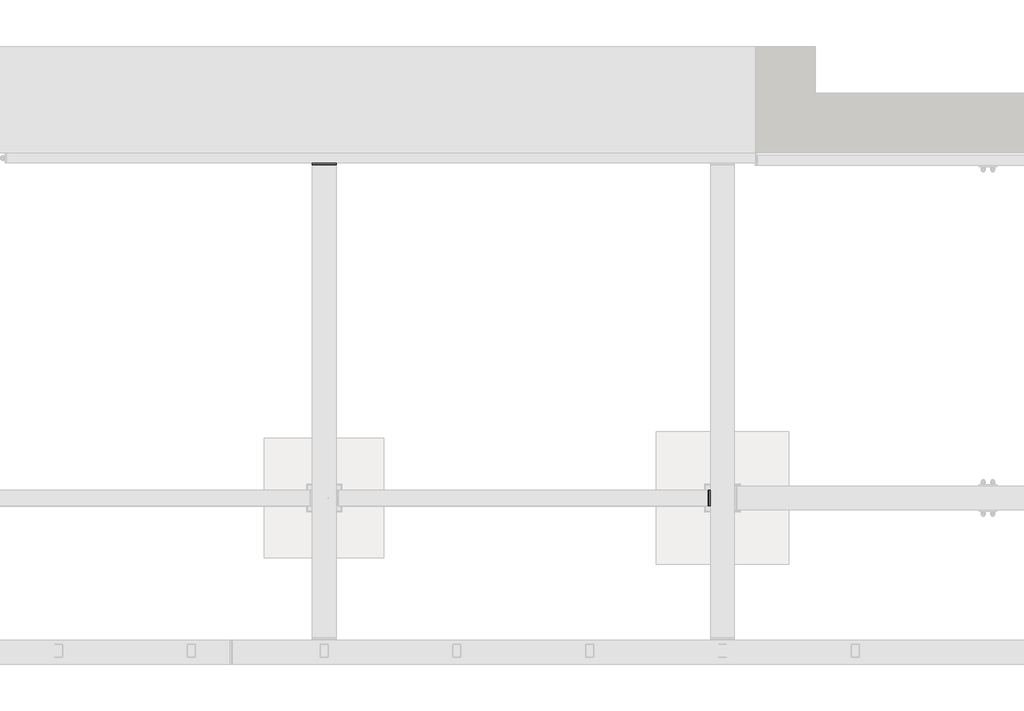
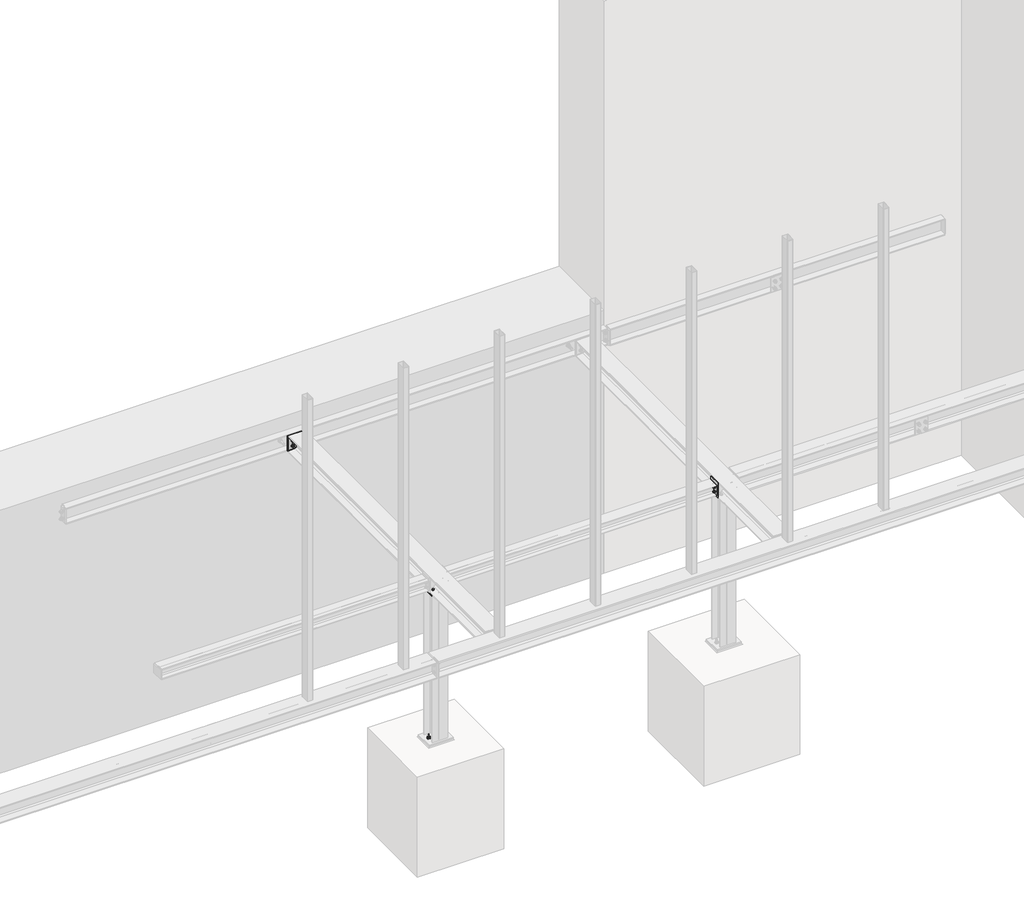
# One storey, part 11 of 31: 10 proxies.
"""IFC4 building model written with IfcOpenShell, lengths in millimetres."""

from ifc_helpers import new_model, si_unit, point, frame, frame_2d, origin, place, context, project, spatial, polyline, circle_curve, trimmed, segment, composite_curve, outline, extrude, element, save

model = new_model("IFC4")

# Units and contexts
model_context = context("Model", 3, world=origin())
ifc_project = project(units=[si_unit("LENGTHUNIT", "METRE", prefix="MILLI")], contexts=[model_context])

# Site, building, storey
site = spatial("IfcSite", under=ifc_project)
building = spatial("IfcBuilding", under=site)
storey = spatial("IfcBuildingStorey", under=building, Name="Základy", Elevation=-1200.0)

# Proxies
placement = place(None, origin())
element("IfcBuildingElementProxy", 1, Name="PLECH", ObjectType="PLECH", at=placement, inside=storey, context=model_context, shape_type="SweptSolid", body=[
    extrude(outline(polyline([(11940.0, 1200.0), (11940.0, 1320.0), (11950.0, 1320.0), (11950.0, 1200.0), (11940.0, 1200.0)])), frame((0.0, 0.0, -299.0), z_axis=(0.0, 0.0, 1.0), x_axis=(1.0, 0.0, 0.0)), (0.0, 0.0, 1.0), 98.0),
])
element("IfcBuildingElementProxy", 2, Name="PLECH", ObjectType="PLECH", at=placement, inside=storey, context=model_context, shape_type="SweptSolid", body=[
    extrude(outline(polyline([(8960.0, 3775.0), (9140.0, 3775.0), (9140.0, 3767.0), (8960.0, 3767.0), (8960.0, 3775.0)])), frame((0.0, 0.0, -316.0), z_axis=(0.0, 0.0, 1.0), x_axis=(1.0, 0.0, 0.0)), (0.0, 0.0, 1.0), 132.0),
])
element("IfcBuildingElementProxy", 3, Name="PLECH", ObjectType="PLECH", at=placement, inside=storey, context=model_context, shape_type="SweptSolid", body=[
    extrude(outline(polyline([(11950.0, 1200.0), (11950.0, 1320.0), (11960.0, 1320.0), (11960.0, 1200.0), (11950.0, 1200.0)])), frame((0.0, 0.0, -332.0), z_axis=(0.0, 0.0, 1.0), x_axis=(1.0, 0.0, 0.0)), (0.0, 0.0, 1.0), 164.0),
])
element("IfcBuildingElementProxy", 4, Name="PLECH", ObjectType="PLECH", at=placement, inside=storey, context=model_context, shape_type="SweptSolid", body=[
    extrude(outline(polyline([(9140.0, 1346.0), (9140.0, 1174.0), (8960.0, 1174.0), (8960.0, 1346.0), (9140.0, 1346.0)])), frame((0.0, 0.0, -350.0), z_axis=(0.0, 0.0, 1.0), x_axis=(1.0, 0.0, 0.0)), (0.0, 0.0, 1.0), 10.0),
])
element("IfcBuildingElementProxy", 5, Name="PLECH", ObjectType="PLECH", at=placement, inside=storey, context=model_context, shape_type="SweptSolid", body=[
    extrude(outline(composite_curve([segment(polyline([(3785.0, -170.5), (3834.5, -170.5)]), True, "CONTINUOUS"), segment(trimmed(circle_curve(frame_2d((3854.5, -170.5)), 20.0), [point((3834.5, -170.5))], [point((3854.5, -190.5))], True, "CARTESIAN"), True, "CONTINUOUS"), segment(polyline([(3854.5, -190.5), (3854.5, -309.5)]), True, "CONTINUOUS"), segment(trimmed(circle_curve(frame_2d((3854.5, -329.5)), 20.0), [point((3854.5, -309.5))], [point((3834.5, -329.5))], True, "CARTESIAN"), True, "CONTINUOUS"), segment(polyline([(3834.5, -329.5), (3785.0, -329.5), (3785.0, -170.5)]), True, "CONTINUOUS")], self_intersect=False)), frame((9046.0, 0.0, 0.0), z_axis=(1.0, 0.0, 0.0), x_axis=(0.0, 1.0, 0.0)), (0.0, 0.0, 1.0), 8.0),
])
element("IfcBuildingElementProxy", 6, Name="PLECH", ObjectType="PLECH", at=placement, inside=storey, context=model_context, shape_type="SweptSolid", body=[
    extrude(outline(polyline([(8960.0, 3785.0), (9140.0, 3785.0), (9140.0, 3775.0), (8960.0, 3775.0), (8960.0, 3785.0)])), frame((0.0, 0.0, -332.0), z_axis=(0.0, 0.0, 1.0), x_axis=(1.0, 0.0, 0.0)), (0.0, 0.0, 1.0), 164.0),
])
element("IfcBuildingElementProxy", 7, Name="Bolt assembly", ObjectType="Bolt assembly", at=placement, inside=storey, context=model_context, shape_type="SweptSolid", body=[
    extrude(outline(composite_curve([segment(trimmed(circle_curve(frame_2d((1230.0, -225.0)), 6.5), [point((1230.0, -231.5))], [point((1230.0, -218.5))], False, "CARTESIAN"), True, "CONTINUOUS"), segment(trimmed(circle_curve(frame_2d((1230.0, -225.0)), 6.5), [point((1230.0, -218.5))], [point((1230.0, -231.5))], False, "CARTESIAN"), True, "CONTINUOUS")], self_intersect=False)), frame((11949.9, 0.0, 0.0), z_axis=(1.0, 0.0, 0.0), x_axis=(0.0, 1.0, 0.0)), (0.0, 0.0, 1.0), 10.0),
    extrude(outline(polyline([(1230.0, -235.3923048), (1221.0, -230.1961524), (1221.0, -219.8038476), (1230.0, -214.6076952), (1239.0, -219.8038476), (1239.0, -230.1961524), (1230.0, -235.3923048)])), frame((11962.5, 0.0, 0.0), z_axis=(1.0, 0.0, 0.0), x_axis=(0.0, 1.0, 0.0)), (0.0, 0.0, 1.0), 7.5),
    extrude(outline(composite_curve([segment(trimmed(circle_curve(frame_2d((1230.0, -225.0)), 6.0), [point((1230.0, -231.0))], [point((1230.0, -219.0))], False, "CARTESIAN"), True, "CONTINUOUS"), segment(trimmed(circle_curve(frame_2d((1230.0, -225.0)), 6.0), [point((1230.0, -219.0))], [point((1230.0, -231.0))], False, "CARTESIAN"), True, "CONTINUOUS")], self_intersect=False)), frame((11922.5, 0.0, 0.0), z_axis=(1.0, 0.0, 0.0), x_axis=(0.0, 1.0, 0.0)), (0.0, 0.0, 1.0), 40.0),
    extrude(outline(composite_curve([segment(trimmed(circle_curve(frame_2d((1230.0, -225.0)), 12.0), [point((1230.0, -237.0))], [point((1230.0, -213.0))], False, "CARTESIAN"), True, "CONTINUOUS"), segment(trimmed(circle_curve(frame_2d((1230.0, -225.0)), 12.0), [point((1230.0, -213.0))], [point((1230.0, -237.0))], False, "CARTESIAN"), True, "CONTINUOUS")], self_intersect=False)), frame((11960.0, 0.0, 0.0), z_axis=(1.0, 0.0, 0.0), x_axis=(0.0, 1.0, 0.0)), (0.0, 0.0, 1.0), 2.5),
    extrude(outline(composite_curve([segment(trimmed(circle_curve(frame_2d((1230.0, -225.0)), 12.0), [point((1230.0, -237.0))], [point((1230.0, -213.0))], False, "CARTESIAN"), True, "CONTINUOUS"), segment(trimmed(circle_curve(frame_2d((1230.0, -225.0)), 12.0), [point((1230.0, -213.0))], [point((1230.0, -237.0))], False, "CARTESIAN"), True, "CONTINUOUS")], self_intersect=False)), frame((11937.5, 0.0, 0.0), z_axis=(1.0, 0.0, 0.0), x_axis=(0.0, 1.0, 0.0)), (0.0, 0.0, 1.0), 2.5),
    extrude(outline(polyline([(1230.0, -235.9696551), (1220.5, -230.4848276), (1220.5, -219.5151724), (1230.0, -214.0303449), (1239.5, -219.5151724), (1239.5, -230.4848276), (1230.0, -235.9696551)])), frame((11927.5, 0.0, 0.0), z_axis=(1.0, 0.0, 0.0), x_axis=(0.0, 1.0, 0.0)), (0.0, 0.0, 1.0), 10.0),
    extrude(outline(composite_curve([segment(trimmed(circle_curve(frame_2d((1230.0, -225.0)), 6.5), [point((1230.0, -231.5))], [point((1230.0, -218.5))], False, "CARTESIAN"), True, "CONTINUOUS"), segment(trimmed(circle_curve(frame_2d((1230.0, -225.0)), 6.5), [point((1230.0, -218.5))], [point((1230.0, -231.5))], False, "CARTESIAN"), True, "CONTINUOUS")], self_intersect=False)), frame((11940.0, 0.0, 0.0), z_axis=(1.0, 0.0, 0.0), x_axis=(0.0, 1.0, 0.0)), (0.0, 0.0, 1.0), 10.1),
    extrude(outline(composite_curve([segment(trimmed(circle_curve(frame_2d((1230.0, -275.0)), 6.5), [point((1230.0, -281.5))], [point((1230.0, -268.5))], False, "CARTESIAN"), True, "CONTINUOUS"), segment(trimmed(circle_curve(frame_2d((1230.0, -275.0)), 6.5), [point((1230.0, -268.5))], [point((1230.0, -281.5))], False, "CARTESIAN"), True, "CONTINUOUS")], self_intersect=False)), frame((11949.9, 0.0, 0.0), z_axis=(1.0, 0.0, 0.0), x_axis=(0.0, 1.0, 0.0)), (0.0, 0.0, 1.0), 10.0),
    extrude(outline(polyline([(1230.0, -285.3923048), (1221.0, -280.1961524), (1221.0, -269.8038476), (1230.0, -264.6076952), (1239.0, -269.8038476), (1239.0, -280.1961524), (1230.0, -285.3923048)])), frame((11962.5, 0.0, 0.0), z_axis=(1.0, 0.0, 0.0), x_axis=(0.0, 1.0, 0.0)), (0.0, 0.0, 1.0), 7.5),
    extrude(outline(composite_curve([segment(trimmed(circle_curve(frame_2d((1230.0, -275.0)), 6.0), [point((1230.0, -281.0))], [point((1230.0, -269.0))], False, "CARTESIAN"), True, "CONTINUOUS"), segment(trimmed(circle_curve(frame_2d((1230.0, -275.0)), 6.0), [point((1230.0, -269.0))], [point((1230.0, -281.0))], False, "CARTESIAN"), True, "CONTINUOUS")], self_intersect=False)), frame((11922.5, 0.0, 0.0), z_axis=(1.0, 0.0, 0.0), x_axis=(0.0, 1.0, 0.0)), (0.0, 0.0, 1.0), 40.0),
    extrude(outline(composite_curve([segment(trimmed(circle_curve(frame_2d((1230.0, -275.0)), 12.0), [point((1230.0, -287.0))], [point((1230.0, -263.0))], False, "CARTESIAN"), True, "CONTINUOUS"), segment(trimmed(circle_curve(frame_2d((1230.0, -275.0)), 12.0), [point((1230.0, -263.0))], [point((1230.0, -287.0))], False, "CARTESIAN"), True, "CONTINUOUS")], self_intersect=False)), frame((11960.0, 0.0, 0.0), z_axis=(1.0, 0.0, 0.0), x_axis=(0.0, 1.0, 0.0)), (0.0, 0.0, 1.0), 2.5),
    extrude(outline(composite_curve([segment(trimmed(circle_curve(frame_2d((1230.0, -275.0)), 12.0), [point((1230.0, -287.0))], [point((1230.0, -263.0))], False, "CARTESIAN"), True, "CONTINUOUS"), segment(trimmed(circle_curve(frame_2d((1230.0, -275.0)), 12.0), [point((1230.0, -263.0))], [point((1230.0, -287.0))], False, "CARTESIAN"), True, "CONTINUOUS")], self_intersect=False)), frame((11937.5, 0.0, 0.0), z_axis=(1.0, 0.0, 0.0), x_axis=(0.0, 1.0, 0.0)), (0.0, 0.0, 1.0), 2.5),
    extrude(outline(polyline([(1230.0, -285.9696551), (1220.5, -280.4848276), (1220.5, -269.5151724), (1230.0, -264.0303449), (1239.5, -269.5151724), (1239.5, -280.4848276), (1230.0, -285.9696551)])), frame((11927.5, 0.0, 0.0), z_axis=(1.0, 0.0, 0.0), x_axis=(0.0, 1.0, 0.0)), (0.0, 0.0, 1.0), 10.0),
    extrude(outline(composite_curve([segment(trimmed(circle_curve(frame_2d((1230.0, -275.0)), 6.5), [point((1230.0, -281.5))], [point((1230.0, -268.5))], False, "CARTESIAN"), True, "CONTINUOUS"), segment(trimmed(circle_curve(frame_2d((1230.0, -275.0)), 6.5), [point((1230.0, -268.5))], [point((1230.0, -281.5))], False, "CARTESIAN"), True, "CONTINUOUS")], self_intersect=False)), frame((11940.0, 0.0, 0.0), z_axis=(1.0, 0.0, 0.0), x_axis=(0.0, 1.0, 0.0)), (0.0, 0.0, 1.0), 10.1),
    extrude(outline(composite_curve([segment(trimmed(circle_curve(frame_2d((1290.0, -225.0)), 6.5), [point((1290.0, -231.5))], [point((1290.0, -218.5))], False, "CARTESIAN"), True, "CONTINUOUS"), segment(trimmed(circle_curve(frame_2d((1290.0, -225.0)), 6.5), [point((1290.0, -218.5))], [point((1290.0, -231.5))], False, "CARTESIAN"), True, "CONTINUOUS")], self_intersect=False)), frame((11949.9, 0.0, 0.0), z_axis=(1.0, 0.0, 0.0), x_axis=(0.0, 1.0, 0.0)), (0.0, 0.0, 1.0), 10.0),
    extrude(outline(polyline([(1290.0, -235.3923048), (1281.0, -230.1961524), (1281.0, -219.8038476), (1290.0, -214.6076952), (1299.0, -219.8038476), (1299.0, -230.1961524), (1290.0, -235.3923048)])), frame((11962.5, 0.0, 0.0), z_axis=(1.0, 0.0, 0.0), x_axis=(0.0, 1.0, 0.0)), (0.0, 0.0, 1.0), 7.5),
    extrude(outline(composite_curve([segment(trimmed(circle_curve(frame_2d((1290.0, -225.0)), 6.0), [point((1290.0, -231.0))], [point((1290.0, -219.0))], False, "CARTESIAN"), True, "CONTINUOUS"), segment(trimmed(circle_curve(frame_2d((1290.0, -225.0)), 6.0), [point((1290.0, -219.0))], [point((1290.0, -231.0))], False, "CARTESIAN"), True, "CONTINUOUS")], self_intersect=False)), frame((11922.5, 0.0, 0.0), z_axis=(1.0, 0.0, 0.0), x_axis=(0.0, 1.0, 0.0)), (0.0, 0.0, 1.0), 40.0),
    extrude(outline(composite_curve([segment(trimmed(circle_curve(frame_2d((1290.0, -225.0)), 12.0), [point((1290.0, -237.0))], [point((1290.0, -213.0))], False, "CARTESIAN"), True, "CONTINUOUS"), segment(trimmed(circle_curve(frame_2d((1290.0, -225.0)), 12.0), [point((1290.0, -213.0))], [point((1290.0, -237.0))], False, "CARTESIAN"), True, "CONTINUOUS")], self_intersect=False)), frame((11960.0, 0.0, 0.0), z_axis=(1.0, 0.0, 0.0), x_axis=(0.0, 1.0, 0.0)), (0.0, 0.0, 1.0), 2.5),
    extrude(outline(composite_curve([segment(trimmed(circle_curve(frame_2d((1290.0, -225.0)), 12.0), [point((1290.0, -237.0))], [point((1290.0, -213.0))], False, "CARTESIAN"), True, "CONTINUOUS"), segment(trimmed(circle_curve(frame_2d((1290.0, -225.0)), 12.0), [point((1290.0, -213.0))], [point((1290.0, -237.0))], False, "CARTESIAN"), True, "CONTINUOUS")], self_intersect=False)), frame((11937.5, 0.0, 0.0), z_axis=(1.0, 0.0, 0.0), x_axis=(0.0, 1.0, 0.0)), (0.0, 0.0, 1.0), 2.5),
    extrude(outline(polyline([(1290.0, -235.9696551), (1280.5, -230.4848276), (1280.5, -219.5151724), (1290.0, -214.0303449), (1299.5, -219.5151724), (1299.5, -230.4848276), (1290.0, -235.9696551)])), frame((11927.5, 0.0, 0.0), z_axis=(1.0, 0.0, 0.0), x_axis=(0.0, 1.0, 0.0)), (0.0, 0.0, 1.0), 10.0),
    extrude(outline(composite_curve([segment(trimmed(circle_curve(frame_2d((1290.0, -225.0)), 6.5), [point((1290.0, -231.5))], [point((1290.0, -218.5))], False, "CARTESIAN"), True, "CONTINUOUS"), segment(trimmed(circle_curve(frame_2d((1290.0, -225.0)), 6.5), [point((1290.0, -218.5))], [point((1290.0, -231.5))], False, "CARTESIAN"), True, "CONTINUOUS")], self_intersect=False)), frame((11940.0, 0.0, 0.0), z_axis=(1.0, 0.0, 0.0), x_axis=(0.0, 1.0, 0.0)), (0.0, 0.0, 1.0), 10.1),
    extrude(outline(composite_curve([segment(trimmed(circle_curve(frame_2d((1290.0, -275.0)), 6.5), [point((1290.0, -281.5))], [point((1290.0, -268.5))], False, "CARTESIAN"), True, "CONTINUOUS"), segment(trimmed(circle_curve(frame_2d((1290.0, -275.0)), 6.5), [point((1290.0, -268.5))], [point((1290.0, -281.5))], False, "CARTESIAN"), True, "CONTINUOUS")], self_intersect=False)), frame((11949.9, 0.0, 0.0), z_axis=(1.0, 0.0, 0.0), x_axis=(0.0, 1.0, 0.0)), (0.0, 0.0, 1.0), 10.0),
    extrude(outline(polyline([(1290.0, -285.3923048), (1281.0, -280.1961524), (1281.0, -269.8038476), (1290.0, -264.6076952), (1299.0, -269.8038476), (1299.0, -280.1961524), (1290.0, -285.3923048)])), frame((11962.5, 0.0, 0.0), z_axis=(1.0, 0.0, 0.0), x_axis=(0.0, 1.0, 0.0)), (0.0, 0.0, 1.0), 7.5),
    extrude(outline(composite_curve([segment(trimmed(circle_curve(frame_2d((1290.0, -275.0)), 6.0), [point((1290.0, -281.0))], [point((1290.0, -269.0))], False, "CARTESIAN"), True, "CONTINUOUS"), segment(trimmed(circle_curve(frame_2d((1290.0, -275.0)), 6.0), [point((1290.0, -269.0))], [point((1290.0, -281.0))], False, "CARTESIAN"), True, "CONTINUOUS")], self_intersect=False)), frame((11922.5, 0.0, 0.0), z_axis=(1.0, 0.0, 0.0), x_axis=(0.0, 1.0, 0.0)), (0.0, 0.0, 1.0), 40.0),
    extrude(outline(composite_curve([segment(trimmed(circle_curve(frame_2d((1290.0, -275.0)), 12.0), [point((1290.0, -287.0))], [point((1290.0, -263.0))], False, "CARTESIAN"), True, "CONTINUOUS"), segment(trimmed(circle_curve(frame_2d((1290.0, -275.0)), 12.0), [point((1290.0, -263.0))], [point((1290.0, -287.0))], False, "CARTESIAN"), True, "CONTINUOUS")], self_intersect=False)), frame((11960.0, 0.0, 0.0), z_axis=(1.0, 0.0, 0.0), x_axis=(0.0, 1.0, 0.0)), (0.0, 0.0, 1.0), 2.5),
    extrude(outline(composite_curve([segment(trimmed(circle_curve(frame_2d((1290.0, -275.0)), 12.0), [point((1290.0, -287.0))], [point((1290.0, -263.0))], False, "CARTESIAN"), True, "CONTINUOUS"), segment(trimmed(circle_curve(frame_2d((1290.0, -275.0)), 12.0), [point((1290.0, -263.0))], [point((1290.0, -287.0))], False, "CARTESIAN"), True, "CONTINUOUS")], self_intersect=False)), frame((11937.5, 0.0, 0.0), z_axis=(1.0, 0.0, 0.0), x_axis=(0.0, 1.0, 0.0)), (0.0, 0.0, 1.0), 2.5),
    extrude(outline(polyline([(1290.0, -285.9696551), (1280.5, -280.4848276), (1280.5, -269.5151724), (1290.0, -264.0303449), (1299.5, -269.5151724), (1299.5, -280.4848276), (1290.0, -285.9696551)])), frame((11927.5, 0.0, 0.0), z_axis=(1.0, 0.0, 0.0), x_axis=(0.0, 1.0, 0.0)), (0.0, 0.0, 1.0), 10.0),
    extrude(outline(composite_curve([segment(trimmed(circle_curve(frame_2d((1290.0, -275.0)), 6.5), [point((1290.0, -281.5))], [point((1290.0, -268.5))], False, "CARTESIAN"), True, "CONTINUOUS"), segment(trimmed(circle_curve(frame_2d((1290.0, -275.0)), 6.5), [point((1290.0, -268.5))], [point((1290.0, -281.5))], False, "CARTESIAN"), True, "CONTINUOUS")], self_intersect=False)), frame((11940.0, 0.0, 0.0), z_axis=(1.0, 0.0, 0.0), x_axis=(0.0, 1.0, 0.0)), (0.0, 0.0, 1.0), 10.1),
])
element("IfcBuildingElementProxy", 8, Name="Bolt assembly", ObjectType="Bolt assembly", at=placement, inside=storey, context=model_context, shape_type="SweptSolid", body=[
    extrude(outline(polyline([(8982.7364934, 1260.0), (8978.8682467, 1253.3000002), (8971.1317533, 1253.3000002), (8967.2635066, 1260.0), (8971.1317533, 1266.6999998), (8978.8682467, 1266.6999998), (8982.7364934, 1260.0)])), frame((0.0, 0.0, -2122.0), z_axis=(0.0, 0.0, 1.0), x_axis=(1.0, 0.0, 0.0)), (0.0, 0.0, 1.0), 132.0),
    extrude(outline(composite_curve([segment(trimmed(circle_curve(frame_2d((8975.0, 1260.0)), 8.0), [point((8983.0, 1260.0))], [point((8967.0, 1260.0))], False, "CARTESIAN"), True, "CONTINUOUS"), segment(trimmed(circle_curve(frame_2d((8975.0, 1260.0)), 8.0), [point((8967.0, 1260.0))], [point((8983.0, 1260.0))], False, "CARTESIAN"), True, "CONTINUOUS")], self_intersect=False)), frame((0.0, 0.0, -1990.0), z_axis=(0.0, 0.0, 1.0), x_axis=(1.0, 0.0, 0.0)), (0.0, 0.0, 1.0), 58.0),
    extrude(outline(composite_curve([segment(trimmed(circle_curve(frame_2d((8975.0, 1260.0)), 15.0), [point((8990.0, 1260.0))], [point((8960.0, 1260.0))], False, "CARTESIAN"), True, "CONTINUOUS"), segment(trimmed(circle_curve(frame_2d((8975.0, 1260.0)), 15.0), [point((8960.0, 1260.0))], [point((8990.0, 1260.0))], False, "CARTESIAN"), True, "CONTINUOUS")], self_intersect=False)), frame((0.0, 0.0, -1975.0), z_axis=(0.0, 0.0, 1.0), x_axis=(1.0, 0.0, 0.0)), (0.0, 0.0, 1.0), 3.0),
    extrude(outline(polyline([(8990.4441197, 1260.0), (8982.7220599, 1246.625), (8967.2779401, 1246.625), (8959.5558803, 1260.0), (8967.2779401, 1273.375), (8982.7220599, 1273.375), (8990.4441197, 1260.0)])), frame((0.0, 0.0, -1972.0), z_axis=(0.0, 0.0, 1.0), x_axis=(1.0, 0.0, 0.0)), (0.0, 0.0, 1.0), 13.0),
    extrude(outline(composite_curve([segment(trimmed(circle_curve(frame_2d((8975.0, 1260.0)), 9.0), [point((8984.0, 1260.0))], [point((8966.0, 1260.0))], False, "CARTESIAN"), True, "CONTINUOUS"), segment(trimmed(circle_curve(frame_2d((8975.0, 1260.0)), 9.0), [point((8966.0, 1260.0))], [point((8984.0, 1260.0))], False, "CARTESIAN"), True, "CONTINUOUS")], self_intersect=False)), frame((0.0, 0.0, -1990.0), z_axis=(0.0, 0.0, 1.0), x_axis=(1.0, 0.0, 0.0)), (0.0, 0.0, 1.0), 15.1),
    extrude(outline(polyline([(9132.7364934, 1260.0), (9128.8682467, 1253.3000002), (9121.1317533, 1253.3000002), (9117.2635066, 1260.0), (9121.1317533, 1266.6999998), (9128.8682467, 1266.6999998), (9132.7364934, 1260.0)])), frame((0.0, 0.0, -2122.0), z_axis=(0.0, 0.0, 1.0), x_axis=(1.0, 0.0, 0.0)), (0.0, 0.0, 1.0), 132.0),
    extrude(outline(composite_curve([segment(trimmed(circle_curve(frame_2d((9125.0, 1260.0)), 8.0), [point((9133.0, 1260.0))], [point((9117.0, 1260.0))], False, "CARTESIAN"), True, "CONTINUOUS"), segment(trimmed(circle_curve(frame_2d((9125.0, 1260.0)), 8.0), [point((9117.0, 1260.0))], [point((9133.0, 1260.0))], False, "CARTESIAN"), True, "CONTINUOUS")], self_intersect=False)), frame((0.0, 0.0, -1990.0), z_axis=(0.0, 0.0, 1.0), x_axis=(1.0, 0.0, 0.0)), (0.0, 0.0, 1.0), 58.0),
    extrude(outline(composite_curve([segment(trimmed(circle_curve(frame_2d((9125.0, 1260.0)), 15.0), [point((9140.0, 1260.0))], [point((9110.0, 1260.0))], False, "CARTESIAN"), True, "CONTINUOUS"), segment(trimmed(circle_curve(frame_2d((9125.0, 1260.0)), 15.0), [point((9110.0, 1260.0))], [point((9140.0, 1260.0))], False, "CARTESIAN"), True, "CONTINUOUS")], self_intersect=False)), frame((0.0, 0.0, -1975.0), z_axis=(0.0, 0.0, 1.0), x_axis=(1.0, 0.0, 0.0)), (0.0, 0.0, 1.0), 3.0),
    extrude(outline(polyline([(9140.4441197, 1260.0), (9132.7220599, 1246.625), (9117.2779401, 1246.625), (9109.5558803, 1260.0), (9117.2779401, 1273.375), (9132.7220599, 1273.375), (9140.4441197, 1260.0)])), frame((0.0, 0.0, -1972.0), z_axis=(0.0, 0.0, 1.0), x_axis=(1.0, 0.0, 0.0)), (0.0, 0.0, 1.0), 13.0),
    extrude(outline(composite_curve([segment(trimmed(circle_curve(frame_2d((9125.0, 1260.0)), 9.0), [point((9134.0, 1260.0))], [point((9116.0, 1260.0))], False, "CARTESIAN"), True, "CONTINUOUS"), segment(trimmed(circle_curve(frame_2d((9125.0, 1260.0)), 9.0), [point((9116.0, 1260.0))], [point((9134.0, 1260.0))], False, "CARTESIAN"), True, "CONTINUOUS")], self_intersect=False)), frame((0.0, 0.0, -1990.0), z_axis=(0.0, 0.0, 1.0), x_axis=(1.0, 0.0, 0.0)), (0.0, 0.0, 1.0), 15.1),
])
element("IfcBuildingElementProxy", 9, Name="Bolt assembly", ObjectType="Bolt assembly", at=placement, inside=storey, context=model_context, shape_type="SweptSolid", body=[
    extrude(outline(composite_curve([segment(trimmed(circle_curve(frame_2d((9000.0, 1220.0)), 6.5), [point((9006.5, 1220.0))], [point((8993.5, 1220.0))], False, "CARTESIAN"), True, "CONTINUOUS"), segment(trimmed(circle_curve(frame_2d((9000.0, 1220.0)), 6.5), [point((8993.5, 1220.0))], [point((9006.5, 1220.0))], False, "CARTESIAN"), True, "CONTINUOUS")], self_intersect=False)), frame((0.0, 0.0, -350.0), z_axis=(0.0, 0.0, 1.0), x_axis=(1.0, 0.0, 0.0)), (0.0, 0.0, 1.0), 10.1),
    extrude(outline(polyline([(9010.3923048, 1220.0), (9005.1961524, 1211.0), (8994.8038476, 1211.0), (8989.6076952, 1220.0), (8994.8038476, 1229.0), (9005.1961524, 1229.0), (9010.3923048, 1220.0)])), frame((0.0, 0.0, -323.5), z_axis=(0.0, 0.0, 1.0), x_axis=(1.0, 0.0, 0.0)), (0.0, 0.0, 1.0), 7.5),
    extrude(outline(composite_curve([segment(trimmed(circle_curve(frame_2d((9000.0, 1220.0)), 6.0), [point((9006.0, 1220.0))], [point((8994.0, 1220.0))], False, "CARTESIAN"), True, "CONTINUOUS"), segment(trimmed(circle_curve(frame_2d((9000.0, 1220.0)), 6.0), [point((8994.0, 1220.0))], [point((9006.0, 1220.0))], False, "CARTESIAN"), True, "CONTINUOUS")], self_intersect=False)), frame((0.0, 0.0, -368.5), z_axis=(0.0, 0.0, 1.0), x_axis=(1.0, 0.0, 0.0)), (0.0, 0.0, 1.0), 45.0),
    extrude(outline(composite_curve([segment(trimmed(circle_curve(frame_2d((9000.0, 1220.0)), 12.0), [point((9012.0, 1220.0))], [point((8988.0, 1220.0))], False, "CARTESIAN"), True, "CONTINUOUS"), segment(trimmed(circle_curve(frame_2d((9000.0, 1220.0)), 12.0), [point((8988.0, 1220.0))], [point((9012.0, 1220.0))], False, "CARTESIAN"), True, "CONTINUOUS")], self_intersect=False)), frame((0.0, 0.0, -326.0), z_axis=(0.0, 0.0, 1.0), x_axis=(1.0, 0.0, 0.0)), (0.0, 0.0, 1.0), 2.5),
    extrude(outline(composite_curve([segment(trimmed(circle_curve(frame_2d((9000.0, 1220.0)), 12.0), [point((9012.0, 1220.0))], [point((8988.0, 1220.0))], False, "CARTESIAN"), True, "CONTINUOUS"), segment(trimmed(circle_curve(frame_2d((9000.0, 1220.0)), 12.0), [point((8988.0, 1220.0))], [point((9012.0, 1220.0))], False, "CARTESIAN"), True, "CONTINUOUS")], self_intersect=False)), frame((0.0, 0.0, -352.5), z_axis=(0.0, 0.0, 1.0), x_axis=(1.0, 0.0, 0.0)), (0.0, 0.0, 1.0), 2.5),
    extrude(outline(polyline([(9010.9696551, 1220.0), (9005.4848276, 1210.5), (8994.5151724, 1210.5), (8989.0303449, 1220.0), (8994.5151724, 1229.5), (9005.4848276, 1229.5), (9010.9696551, 1220.0)])), frame((0.0, 0.0, -362.5), z_axis=(0.0, 0.0, 1.0), x_axis=(1.0, 0.0, 0.0)), (0.0, 0.0, 1.0), 10.0),
    extrude(outline(composite_curve([segment(trimmed(circle_curve(frame_2d((9000.0, 1220.0)), 6.5), [point((9006.5, 1220.0))], [point((8993.5, 1220.0))], False, "CARTESIAN"), True, "CONTINUOUS"), segment(trimmed(circle_curve(frame_2d((9000.0, 1220.0)), 6.5), [point((8993.5, 1220.0))], [point((9006.5, 1220.0))], False, "CARTESIAN"), True, "CONTINUOUS")], self_intersect=False)), frame((0.0, 0.0, -340.1), z_axis=(0.0, 0.0, 1.0), x_axis=(1.0, 0.0, 0.0)), (0.0, 0.0, 1.0), 14.0),
    extrude(outline(composite_curve([segment(trimmed(circle_curve(frame_2d((9100.0, 1220.0)), 6.5), [point((9106.5, 1220.0))], [point((9093.5, 1220.0))], False, "CARTESIAN"), True, "CONTINUOUS"), segment(trimmed(circle_curve(frame_2d((9100.0, 1220.0)), 6.5), [point((9093.5, 1220.0))], [point((9106.5, 1220.0))], False, "CARTESIAN"), True, "CONTINUOUS")], self_intersect=False)), frame((0.0, 0.0, -350.0), z_axis=(0.0, 0.0, 1.0), x_axis=(1.0, 0.0, 0.0)), (0.0, 0.0, 1.0), 10.1),
    extrude(outline(polyline([(9110.3923048, 1220.0), (9105.1961524, 1211.0), (9094.8038476, 1211.0), (9089.6076952, 1220.0), (9094.8038476, 1229.0), (9105.1961524, 1229.0), (9110.3923048, 1220.0)])), frame((0.0, 0.0, -323.5), z_axis=(0.0, 0.0, 1.0), x_axis=(1.0, 0.0, 0.0)), (0.0, 0.0, 1.0), 7.5),
    extrude(outline(composite_curve([segment(trimmed(circle_curve(frame_2d((9100.0, 1220.0)), 6.0), [point((9106.0, 1220.0))], [point((9094.0, 1220.0))], False, "CARTESIAN"), True, "CONTINUOUS"), segment(trimmed(circle_curve(frame_2d((9100.0, 1220.0)), 6.0), [point((9094.0, 1220.0))], [point((9106.0, 1220.0))], False, "CARTESIAN"), True, "CONTINUOUS")], self_intersect=False)), frame((0.0, 0.0, -368.5), z_axis=(0.0, 0.0, 1.0), x_axis=(1.0, 0.0, 0.0)), (0.0, 0.0, 1.0), 45.0),
    extrude(outline(composite_curve([segment(trimmed(circle_curve(frame_2d((9100.0, 1220.0)), 12.0), [point((9112.0, 1220.0))], [point((9088.0, 1220.0))], False, "CARTESIAN"), True, "CONTINUOUS"), segment(trimmed(circle_curve(frame_2d((9100.0, 1220.0)), 12.0), [point((9088.0, 1220.0))], [point((9112.0, 1220.0))], False, "CARTESIAN"), True, "CONTINUOUS")], self_intersect=False)), frame((0.0, 0.0, -326.0), z_axis=(0.0, 0.0, 1.0), x_axis=(1.0, 0.0, 0.0)), (0.0, 0.0, 1.0), 2.5),
    extrude(outline(composite_curve([segment(trimmed(circle_curve(frame_2d((9100.0, 1220.0)), 12.0), [point((9112.0, 1220.0))], [point((9088.0, 1220.0))], False, "CARTESIAN"), True, "CONTINUOUS"), segment(trimmed(circle_curve(frame_2d((9100.0, 1220.0)), 12.0), [point((9088.0, 1220.0))], [point((9112.0, 1220.0))], False, "CARTESIAN"), True, "CONTINUOUS")], self_intersect=False)), frame((0.0, 0.0, -352.5), z_axis=(0.0, 0.0, 1.0), x_axis=(1.0, 0.0, 0.0)), (0.0, 0.0, 1.0), 2.5),
    extrude(outline(polyline([(9110.9696551, 1220.0), (9105.4848276, 1210.5), (9094.5151724, 1210.5), (9089.0303449, 1220.0), (9094.5151724, 1229.5), (9105.4848276, 1229.5), (9110.9696551, 1220.0)])), frame((0.0, 0.0, -362.5), z_axis=(0.0, 0.0, 1.0), x_axis=(1.0, 0.0, 0.0)), (0.0, 0.0, 1.0), 10.0),
    extrude(outline(composite_curve([segment(trimmed(circle_curve(frame_2d((9100.0, 1220.0)), 6.5), [point((9106.5, 1220.0))], [point((9093.5, 1220.0))], False, "CARTESIAN"), True, "CONTINUOUS"), segment(trimmed(circle_curve(frame_2d((9100.0, 1220.0)), 6.5), [point((9093.5, 1220.0))], [point((9106.5, 1220.0))], False, "CARTESIAN"), True, "CONTINUOUS")], self_intersect=False)), frame((0.0, 0.0, -340.1), z_axis=(0.0, 0.0, 1.0), x_axis=(1.0, 0.0, 0.0)), (0.0, 0.0, 1.0), 14.0),
    extrude(outline(composite_curve([segment(trimmed(circle_curve(frame_2d((9000.0, 1300.0)), 6.5), [point((9006.5, 1300.0))], [point((8993.5, 1300.0))], False, "CARTESIAN"), True, "CONTINUOUS"), segment(trimmed(circle_curve(frame_2d((9000.0, 1300.0)), 6.5), [point((8993.5, 1300.0))], [point((9006.5, 1300.0))], False, "CARTESIAN"), True, "CONTINUOUS")], self_intersect=False)), frame((0.0, 0.0, -350.0), z_axis=(0.0, 0.0, 1.0), x_axis=(1.0, 0.0, 0.0)), (0.0, 0.0, 1.0), 10.1),
    extrude(outline(polyline([(9010.3923048, 1300.0), (9005.1961524, 1291.0), (8994.8038476, 1291.0), (8989.6076952, 1300.0), (8994.8038476, 1309.0), (9005.1961524, 1309.0), (9010.3923048, 1300.0)])), frame((0.0, 0.0, -323.5), z_axis=(0.0, 0.0, 1.0), x_axis=(1.0, 0.0, 0.0)), (0.0, 0.0, 1.0), 7.5),
    extrude(outline(composite_curve([segment(trimmed(circle_curve(frame_2d((9000.0, 1300.0)), 6.0), [point((9006.0, 1300.0))], [point((8994.0, 1300.0))], False, "CARTESIAN"), True, "CONTINUOUS"), segment(trimmed(circle_curve(frame_2d((9000.0, 1300.0)), 6.0), [point((8994.0, 1300.0))], [point((9006.0, 1300.0))], False, "CARTESIAN"), True, "CONTINUOUS")], self_intersect=False)), frame((0.0, 0.0, -368.5), z_axis=(0.0, 0.0, 1.0), x_axis=(1.0, 0.0, 0.0)), (0.0, 0.0, 1.0), 45.0),
    extrude(outline(composite_curve([segment(trimmed(circle_curve(frame_2d((9000.0, 1300.0)), 12.0), [point((9012.0, 1300.0))], [point((8988.0, 1300.0))], False, "CARTESIAN"), True, "CONTINUOUS"), segment(trimmed(circle_curve(frame_2d((9000.0, 1300.0)), 12.0), [point((8988.0, 1300.0))], [point((9012.0, 1300.0))], False, "CARTESIAN"), True, "CONTINUOUS")], self_intersect=False)), frame((0.0, 0.0, -326.0), z_axis=(0.0, 0.0, 1.0), x_axis=(1.0, 0.0, 0.0)), (0.0, 0.0, 1.0), 2.5),
    extrude(outline(composite_curve([segment(trimmed(circle_curve(frame_2d((9000.0, 1300.0)), 12.0), [point((9012.0, 1300.0))], [point((8988.0, 1300.0))], False, "CARTESIAN"), True, "CONTINUOUS"), segment(trimmed(circle_curve(frame_2d((9000.0, 1300.0)), 12.0), [point((8988.0, 1300.0))], [point((9012.0, 1300.0))], False, "CARTESIAN"), True, "CONTINUOUS")], self_intersect=False)), frame((0.0, 0.0, -352.5), z_axis=(0.0, 0.0, 1.0), x_axis=(1.0, 0.0, 0.0)), (0.0, 0.0, 1.0), 2.5),
    extrude(outline(polyline([(9010.9696551, 1300.0), (9005.4848276, 1290.5), (8994.5151724, 1290.5), (8989.0303449, 1300.0), (8994.5151724, 1309.5), (9005.4848276, 1309.5), (9010.9696551, 1300.0)])), frame((0.0, 0.0, -362.5), z_axis=(0.0, 0.0, 1.0), x_axis=(1.0, 0.0, 0.0)), (0.0, 0.0, 1.0), 10.0),
    extrude(outline(composite_curve([segment(trimmed(circle_curve(frame_2d((9000.0, 1300.0)), 6.5), [point((9006.5, 1300.0))], [point((8993.5, 1300.0))], False, "CARTESIAN"), True, "CONTINUOUS"), segment(trimmed(circle_curve(frame_2d((9000.0, 1300.0)), 6.5), [point((8993.5, 1300.0))], [point((9006.5, 1300.0))], False, "CARTESIAN"), True, "CONTINUOUS")], self_intersect=False)), frame((0.0, 0.0, -340.1), z_axis=(0.0, 0.0, 1.0), x_axis=(1.0, 0.0, 0.0)), (0.0, 0.0, 1.0), 14.0),
    extrude(outline(composite_curve([segment(trimmed(circle_curve(frame_2d((9100.0, 1300.0)), 6.5), [point((9106.5, 1300.0))], [point((9093.5, 1300.0))], False, "CARTESIAN"), True, "CONTINUOUS"), segment(trimmed(circle_curve(frame_2d((9100.0, 1300.0)), 6.5), [point((9093.5, 1300.0))], [point((9106.5, 1300.0))], False, "CARTESIAN"), True, "CONTINUOUS")], self_intersect=False)), frame((0.0, 0.0, -350.0), z_axis=(0.0, 0.0, 1.0), x_axis=(1.0, 0.0, 0.0)), (0.0, 0.0, 1.0), 10.1),
    extrude(outline(polyline([(9110.3923048, 1300.0), (9105.1961524, 1291.0), (9094.8038476, 1291.0), (9089.6076952, 1300.0), (9094.8038476, 1309.0), (9105.1961524, 1309.0), (9110.3923048, 1300.0)])), frame((0.0, 0.0, -323.5), z_axis=(0.0, 0.0, 1.0), x_axis=(1.0, 0.0, 0.0)), (0.0, 0.0, 1.0), 7.5),
    extrude(outline(composite_curve([segment(trimmed(circle_curve(frame_2d((9100.0, 1300.0)), 6.0), [point((9106.0, 1300.0))], [point((9094.0, 1300.0))], False, "CARTESIAN"), True, "CONTINUOUS"), segment(trimmed(circle_curve(frame_2d((9100.0, 1300.0)), 6.0), [point((9094.0, 1300.0))], [point((9106.0, 1300.0))], False, "CARTESIAN"), True, "CONTINUOUS")], self_intersect=False)), frame((0.0, 0.0, -368.5), z_axis=(0.0, 0.0, 1.0), x_axis=(1.0, 0.0, 0.0)), (0.0, 0.0, 1.0), 45.0),
    extrude(outline(composite_curve([segment(trimmed(circle_curve(frame_2d((9100.0, 1300.0)), 12.0), [point((9112.0, 1300.0))], [point((9088.0, 1300.0))], False, "CARTESIAN"), True, "CONTINUOUS"), segment(trimmed(circle_curve(frame_2d((9100.0, 1300.0)), 12.0), [point((9088.0, 1300.0))], [point((9112.0, 1300.0))], False, "CARTESIAN"), True, "CONTINUOUS")], self_intersect=False)), frame((0.0, 0.0, -326.0), z_axis=(0.0, 0.0, 1.0), x_axis=(1.0, 0.0, 0.0)), (0.0, 0.0, 1.0), 2.5),
    extrude(outline(composite_curve([segment(trimmed(circle_curve(frame_2d((9100.0, 1300.0)), 12.0), [point((9112.0, 1300.0))], [point((9088.0, 1300.0))], False, "CARTESIAN"), True, "CONTINUOUS"), segment(trimmed(circle_curve(frame_2d((9100.0, 1300.0)), 12.0), [point((9088.0, 1300.0))], [point((9112.0, 1300.0))], False, "CARTESIAN"), True, "CONTINUOUS")], self_intersect=False)), frame((0.0, 0.0, -352.5), z_axis=(0.0, 0.0, 1.0), x_axis=(1.0, 0.0, 0.0)), (0.0, 0.0, 1.0), 2.5),
    extrude(outline(polyline([(9110.9696551, 1300.0), (9105.4848276, 1290.5), (9094.5151724, 1290.5), (9089.0303449, 1300.0), (9094.5151724, 1309.5), (9105.4848276, 1309.5), (9110.9696551, 1300.0)])), frame((0.0, 0.0, -362.5), z_axis=(0.0, 0.0, 1.0), x_axis=(1.0, 0.0, 0.0)), (0.0, 0.0, 1.0), 10.0),
    extrude(outline(composite_curve([segment(trimmed(circle_curve(frame_2d((9100.0, 1300.0)), 6.5), [point((9106.5, 1300.0))], [point((9093.5, 1300.0))], False, "CARTESIAN"), True, "CONTINUOUS"), segment(trimmed(circle_curve(frame_2d((9100.0, 1300.0)), 6.5), [point((9093.5, 1300.0))], [point((9106.5, 1300.0))], False, "CARTESIAN"), True, "CONTINUOUS")], self_intersect=False)), frame((0.0, 0.0, -340.1), z_axis=(0.0, 0.0, 1.0), x_axis=(1.0, 0.0, 0.0)), (0.0, 0.0, 1.0), 14.0),
])
element("IfcBuildingElementProxy", 10, Name="Bolt assembly", ObjectType="Bolt assembly", at=placement, inside=storey, context=model_context, shape_type="SweptSolid", body=[
    extrude(outline(composite_curve([segment(trimmed(circle_curve(frame_2d((-220.0, 9005.0)), 9.0), [point((-220.0, 9014.0))], [point((-220.0, 8996.0))], False, "CARTESIAN"), True, "CONTINUOUS"), segment(trimmed(circle_curve(frame_2d((-220.0, 9005.0)), 9.0), [point((-220.0, 8996.0))], [point((-220.0, 9014.0))], False, "CARTESIAN"), True, "CONTINUOUS")], self_intersect=False)), frame((0.0, 3774.9, 0.0), z_axis=(0.0, 1.0, 0.0), x_axis=(0.0, 0.0, 1.0)), (0.0, 0.0, 1.0), 10.0),
    extrude(outline(polyline([(-220.0, 9018.8564065), (-208.0, 9011.9282032), (-208.0, 8998.0717968), (-220.0, 8991.1435935), (-232.0, 8998.0717968), (-232.0, 9011.9282032), (-220.0, 9018.8564065)])), frame((0.0, 3788.0, 0.0), z_axis=(0.0, 1.0, 0.0), x_axis=(0.0, 0.0, 1.0)), (0.0, 0.0, 1.0), 10.0),
    extrude(outline(composite_curve([segment(trimmed(circle_curve(frame_2d((-220.0, 9005.0)), 8.0), [point((-220.0, 9013.0))], [point((-220.0, 8997.0))], False, "CARTESIAN"), True, "CONTINUOUS"), segment(trimmed(circle_curve(frame_2d((-220.0, 9005.0)), 8.0), [point((-220.0, 8997.0))], [point((-220.0, 9013.0))], False, "CARTESIAN"), True, "CONTINUOUS")], self_intersect=False)), frame((0.0, 3738.0, 0.0), z_axis=(0.0, 1.0, 0.0), x_axis=(0.0, 0.0, 1.0)), (0.0, 0.0, 1.0), 50.0),
    extrude(outline(composite_curve([segment(trimmed(circle_curve(frame_2d((-220.0, 9005.0)), 15.0), [point((-220.0, 9020.0))], [point((-220.0, 8990.0))], False, "CARTESIAN"), True, "CONTINUOUS"), segment(trimmed(circle_curve(frame_2d((-220.0, 9005.0)), 15.0), [point((-220.0, 8990.0))], [point((-220.0, 9020.0))], False, "CARTESIAN"), True, "CONTINUOUS")], self_intersect=False)), frame((0.0, 3785.0, 0.0), z_axis=(0.0, 1.0, 0.0), x_axis=(0.0, 0.0, 1.0)), (0.0, 0.0, 1.0), 3.0),
    extrude(outline(composite_curve([segment(trimmed(circle_curve(frame_2d((-220.0, 9005.0)), 15.0), [point((-220.0, 9020.0))], [point((-220.0, 8990.0))], False, "CARTESIAN"), True, "CONTINUOUS"), segment(trimmed(circle_curve(frame_2d((-220.0, 9005.0)), 15.0), [point((-220.0, 8990.0))], [point((-220.0, 9020.0))], False, "CARTESIAN"), True, "CONTINUOUS")], self_intersect=False)), frame((0.0, 3764.0, 0.0), z_axis=(0.0, 1.0, 0.0), x_axis=(0.0, 0.0, 1.0)), (0.0, 0.0, 1.0), 3.0),
    extrude(outline(polyline([(-220.0, 9020.4441197), (-206.625, 9012.7220599), (-206.625, 8997.2779401), (-220.0, 8989.5558803), (-233.375, 8997.2779401), (-233.375, 9012.7220599), (-220.0, 9020.4441197)])), frame((0.0, 3751.0, 0.0), z_axis=(0.0, 1.0, 0.0), x_axis=(0.0, 0.0, 1.0)), (0.0, 0.0, 1.0), 13.0),
    extrude(outline(composite_curve([segment(trimmed(circle_curve(frame_2d((-220.0, 9005.0)), 9.0), [point((-220.0, 9014.0))], [point((-220.0, 8996.0))], False, "CARTESIAN"), True, "CONTINUOUS"), segment(trimmed(circle_curve(frame_2d((-220.0, 9005.0)), 9.0), [point((-220.0, 8996.0))], [point((-220.0, 9014.0))], False, "CARTESIAN"), True, "CONTINUOUS")], self_intersect=False)), frame((0.0, 3767.0, 0.0), z_axis=(0.0, 1.0, 0.0), x_axis=(0.0, 0.0, 1.0)), (0.0, 0.0, 1.0), 8.1),
    extrude(outline(composite_curve([segment(trimmed(circle_curve(frame_2d((-220.0, 9095.0)), 9.0), [point((-220.0, 9104.0))], [point((-220.0, 9086.0))], False, "CARTESIAN"), True, "CONTINUOUS"), segment(trimmed(circle_curve(frame_2d((-220.0, 9095.0)), 9.0), [point((-220.0, 9086.0))], [point((-220.0, 9104.0))], False, "CARTESIAN"), True, "CONTINUOUS")], self_intersect=False)), frame((0.0, 3774.9, 0.0), z_axis=(0.0, 1.0, 0.0), x_axis=(0.0, 0.0, 1.0)), (0.0, 0.0, 1.0), 10.0),
    extrude(outline(polyline([(-220.0, 9108.8564065), (-208.0, 9101.9282032), (-208.0, 9088.0717968), (-220.0, 9081.1435935), (-232.0, 9088.0717968), (-232.0, 9101.9282032), (-220.0, 9108.8564065)])), frame((0.0, 3788.0, 0.0), z_axis=(0.0, 1.0, 0.0), x_axis=(0.0, 0.0, 1.0)), (0.0, 0.0, 1.0), 10.0),
    extrude(outline(composite_curve([segment(trimmed(circle_curve(frame_2d((-220.0, 9095.0)), 8.0), [point((-220.0, 9103.0))], [point((-220.0, 9087.0))], False, "CARTESIAN"), True, "CONTINUOUS"), segment(trimmed(circle_curve(frame_2d((-220.0, 9095.0)), 8.0), [point((-220.0, 9087.0))], [point((-220.0, 9103.0))], False, "CARTESIAN"), True, "CONTINUOUS")], self_intersect=False)), frame((0.0, 3738.0, 0.0), z_axis=(0.0, 1.0, 0.0), x_axis=(0.0, 0.0, 1.0)), (0.0, 0.0, 1.0), 50.0),
    extrude(outline(composite_curve([segment(trimmed(circle_curve(frame_2d((-220.0, 9095.0)), 15.0), [point((-220.0, 9110.0))], [point((-220.0, 9080.0))], False, "CARTESIAN"), True, "CONTINUOUS"), segment(trimmed(circle_curve(frame_2d((-220.0, 9095.0)), 15.0), [point((-220.0, 9080.0))], [point((-220.0, 9110.0))], False, "CARTESIAN"), True, "CONTINUOUS")], self_intersect=False)), frame((0.0, 3785.0, 0.0), z_axis=(0.0, 1.0, 0.0), x_axis=(0.0, 0.0, 1.0)), (0.0, 0.0, 1.0), 3.0),
    extrude(outline(composite_curve([segment(trimmed(circle_curve(frame_2d((-220.0, 9095.0)), 15.0), [point((-220.0, 9110.0))], [point((-220.0, 9080.0))], False, "CARTESIAN"), True, "CONTINUOUS"), segment(trimmed(circle_curve(frame_2d((-220.0, 9095.0)), 15.0), [point((-220.0, 9080.0))], [point((-220.0, 9110.0))], False, "CARTESIAN"), True, "CONTINUOUS")], self_intersect=False)), frame((0.0, 3764.0, 0.0), z_axis=(0.0, 1.0, 0.0), x_axis=(0.0, 0.0, 1.0)), (0.0, 0.0, 1.0), 3.0),
    extrude(outline(polyline([(-220.0, 9110.4441197), (-206.625, 9102.7220599), (-206.625, 9087.2779401), (-220.0, 9079.5558803), (-233.375, 9087.2779401), (-233.375, 9102.7220599), (-220.0, 9110.4441197)])), frame((0.0, 3751.0, 0.0), z_axis=(0.0, 1.0, 0.0), x_axis=(0.0, 0.0, 1.0)), (0.0, 0.0, 1.0), 13.0),
    extrude(outline(composite_curve([segment(trimmed(circle_curve(frame_2d((-220.0, 9095.0)), 9.0), [point((-220.0, 9104.0))], [point((-220.0, 9086.0))], False, "CARTESIAN"), True, "CONTINUOUS"), segment(trimmed(circle_curve(frame_2d((-220.0, 9095.0)), 9.0), [point((-220.0, 9086.0))], [point((-220.0, 9104.0))], False, "CARTESIAN"), True, "CONTINUOUS")], self_intersect=False)), frame((0.0, 3767.0, 0.0), z_axis=(0.0, 1.0, 0.0), x_axis=(0.0, 0.0, 1.0)), (0.0, 0.0, 1.0), 8.1),
    extrude(outline(composite_curve([segment(trimmed(circle_curve(frame_2d((-280.0, 9005.0)), 9.0), [point((-280.0, 9014.0))], [point((-280.0, 8996.0))], False, "CARTESIAN"), True, "CONTINUOUS"), segment(trimmed(circle_curve(frame_2d((-280.0, 9005.0)), 9.0), [point((-280.0, 8996.0))], [point((-280.0, 9014.0))], False, "CARTESIAN"), True, "CONTINUOUS")], self_intersect=False)), frame((0.0, 3774.9, 0.0), z_axis=(0.0, 1.0, 0.0), x_axis=(0.0, 0.0, 1.0)), (0.0, 0.0, 1.0), 10.0),
    extrude(outline(polyline([(-280.0, 9018.8564065), (-268.0, 9011.9282032), (-268.0, 8998.0717968), (-280.0, 8991.1435935), (-292.0, 8998.0717968), (-292.0, 9011.9282032), (-280.0, 9018.8564065)])), frame((0.0, 3788.0, 0.0), z_axis=(0.0, 1.0, 0.0), x_axis=(0.0, 0.0, 1.0)), (0.0, 0.0, 1.0), 10.0),
    extrude(outline(composite_curve([segment(trimmed(circle_curve(frame_2d((-280.0, 9005.0)), 8.0), [point((-280.0, 9013.0))], [point((-280.0, 8997.0))], False, "CARTESIAN"), True, "CONTINUOUS"), segment(trimmed(circle_curve(frame_2d((-280.0, 9005.0)), 8.0), [point((-280.0, 8997.0))], [point((-280.0, 9013.0))], False, "CARTESIAN"), True, "CONTINUOUS")], self_intersect=False)), frame((0.0, 3738.0, 0.0), z_axis=(0.0, 1.0, 0.0), x_axis=(0.0, 0.0, 1.0)), (0.0, 0.0, 1.0), 50.0),
    extrude(outline(composite_curve([segment(trimmed(circle_curve(frame_2d((-280.0, 9005.0)), 15.0), [point((-280.0, 9020.0))], [point((-280.0, 8990.0))], False, "CARTESIAN"), True, "CONTINUOUS"), segment(trimmed(circle_curve(frame_2d((-280.0, 9005.0)), 15.0), [point((-280.0, 8990.0))], [point((-280.0, 9020.0))], False, "CARTESIAN"), True, "CONTINUOUS")], self_intersect=False)), frame((0.0, 3785.0, 0.0), z_axis=(0.0, 1.0, 0.0), x_axis=(0.0, 0.0, 1.0)), (0.0, 0.0, 1.0), 3.0),
    extrude(outline(composite_curve([segment(trimmed(circle_curve(frame_2d((-280.0, 9005.0)), 15.0), [point((-280.0, 9020.0))], [point((-280.0, 8990.0))], False, "CARTESIAN"), True, "CONTINUOUS"), segment(trimmed(circle_curve(frame_2d((-280.0, 9005.0)), 15.0), [point((-280.0, 8990.0))], [point((-280.0, 9020.0))], False, "CARTESIAN"), True, "CONTINUOUS")], self_intersect=False)), frame((0.0, 3764.0, 0.0), z_axis=(0.0, 1.0, 0.0), x_axis=(0.0, 0.0, 1.0)), (0.0, 0.0, 1.0), 3.0),
    extrude(outline(polyline([(-280.0, 9020.4441197), (-266.625, 9012.7220599), (-266.625, 8997.2779401), (-280.0, 8989.5558803), (-293.375, 8997.2779401), (-293.375, 9012.7220599), (-280.0, 9020.4441197)])), frame((0.0, 3751.0, 0.0), z_axis=(0.0, 1.0, 0.0), x_axis=(0.0, 0.0, 1.0)), (0.0, 0.0, 1.0), 13.0),
    extrude(outline(composite_curve([segment(trimmed(circle_curve(frame_2d((-280.0, 9005.0)), 9.0), [point((-280.0, 9014.0))], [point((-280.0, 8996.0))], False, "CARTESIAN"), True, "CONTINUOUS"), segment(trimmed(circle_curve(frame_2d((-280.0, 9005.0)), 9.0), [point((-280.0, 8996.0))], [point((-280.0, 9014.0))], False, "CARTESIAN"), True, "CONTINUOUS")], self_intersect=False)), frame((0.0, 3767.0, 0.0), z_axis=(0.0, 1.0, 0.0), x_axis=(0.0, 0.0, 1.0)), (0.0, 0.0, 1.0), 8.1),
    extrude(outline(composite_curve([segment(trimmed(circle_curve(frame_2d((-280.0, 9095.0)), 9.0), [point((-280.0, 9104.0))], [point((-280.0, 9086.0))], False, "CARTESIAN"), True, "CONTINUOUS"), segment(trimmed(circle_curve(frame_2d((-280.0, 9095.0)), 9.0), [point((-280.0, 9086.0))], [point((-280.0, 9104.0))], False, "CARTESIAN"), True, "CONTINUOUS")], self_intersect=False)), frame((0.0, 3774.9, 0.0), z_axis=(0.0, 1.0, 0.0), x_axis=(0.0, 0.0, 1.0)), (0.0, 0.0, 1.0), 10.0),
    extrude(outline(polyline([(-280.0, 9108.8564065), (-268.0, 9101.9282032), (-268.0, 9088.0717968), (-280.0, 9081.1435935), (-292.0, 9088.0717968), (-292.0, 9101.9282032), (-280.0, 9108.8564065)])), frame((0.0, 3788.0, 0.0), z_axis=(0.0, 1.0, 0.0), x_axis=(0.0, 0.0, 1.0)), (0.0, 0.0, 1.0), 10.0),
    extrude(outline(composite_curve([segment(trimmed(circle_curve(frame_2d((-280.0, 9095.0)), 8.0), [point((-280.0, 9103.0))], [point((-280.0, 9087.0))], False, "CARTESIAN"), True, "CONTINUOUS"), segment(trimmed(circle_curve(frame_2d((-280.0, 9095.0)), 8.0), [point((-280.0, 9087.0))], [point((-280.0, 9103.0))], False, "CARTESIAN"), True, "CONTINUOUS")], self_intersect=False)), frame((0.0, 3738.0, 0.0), z_axis=(0.0, 1.0, 0.0), x_axis=(0.0, 0.0, 1.0)), (0.0, 0.0, 1.0), 50.0),
    extrude(outline(composite_curve([segment(trimmed(circle_curve(frame_2d((-280.0, 9095.0)), 15.0), [point((-280.0, 9110.0))], [point((-280.0, 9080.0))], False, "CARTESIAN"), True, "CONTINUOUS"), segment(trimmed(circle_curve(frame_2d((-280.0, 9095.0)), 15.0), [point((-280.0, 9080.0))], [point((-280.0, 9110.0))], False, "CARTESIAN"), True, "CONTINUOUS")], self_intersect=False)), frame((0.0, 3785.0, 0.0), z_axis=(0.0, 1.0, 0.0), x_axis=(0.0, 0.0, 1.0)), (0.0, 0.0, 1.0), 3.0),
    extrude(outline(composite_curve([segment(trimmed(circle_curve(frame_2d((-280.0, 9095.0)), 15.0), [point((-280.0, 9110.0))], [point((-280.0, 9080.0))], False, "CARTESIAN"), True, "CONTINUOUS"), segment(trimmed(circle_curve(frame_2d((-280.0, 9095.0)), 15.0), [point((-280.0, 9080.0))], [point((-280.0, 9110.0))], False, "CARTESIAN"), True, "CONTINUOUS")], self_intersect=False)), frame((0.0, 3764.0, 0.0), z_axis=(0.0, 1.0, 0.0), x_axis=(0.0, 0.0, 1.0)), (0.0, 0.0, 1.0), 3.0),
    extrude(outline(polyline([(-280.0, 9110.4441197), (-266.625, 9102.7220599), (-266.625, 9087.2779401), (-280.0, 9079.5558803), (-293.375, 9087.2779401), (-293.375, 9102.7220599), (-280.0, 9110.4441197)])), frame((0.0, 3751.0, 0.0), z_axis=(0.0, 1.0, 0.0), x_axis=(0.0, 0.0, 1.0)), (0.0, 0.0, 1.0), 13.0),
    extrude(outline(composite_curve([segment(trimmed(circle_curve(frame_2d((-280.0, 9095.0)), 9.0), [point((-280.0, 9104.0))], [point((-280.0, 9086.0))], False, "CARTESIAN"), True, "CONTINUOUS"), segment(trimmed(circle_curve(frame_2d((-280.0, 9095.0)), 9.0), [point((-280.0, 9086.0))], [point((-280.0, 9104.0))], False, "CARTESIAN"), True, "CONTINUOUS")], self_intersect=False)), frame((0.0, 3767.0, 0.0), z_axis=(0.0, 1.0, 0.0), x_axis=(0.0, 0.0, 1.0)), (0.0, 0.0, 1.0), 8.1),
])

save(model, "model.ifc")
